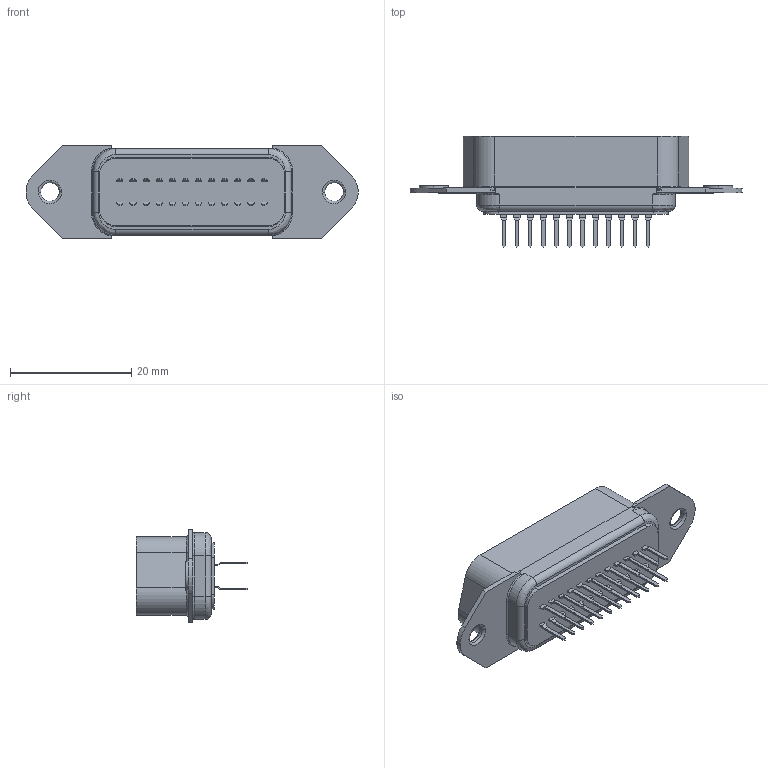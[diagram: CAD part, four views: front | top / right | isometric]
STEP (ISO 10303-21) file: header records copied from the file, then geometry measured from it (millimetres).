
FILE_DESCRIPTION (( 'STEP AP214' ), '1' );
FILE_NAME ('111-024-113L001.STEP', '2020-07-21T18:58:43', ( '' ), ( '' ), 'SwSTEP 2.0', 'SolidWorks 2020', '' );
FILE_SCHEMA (( 'AUTOMOTIVE_DESIGN' ));
Products named in the file (1): 111-024-113L001
Bounding box: 54.67 x 18.3 x 15.3 mm (x, y, z)
Volume: 3178.7 mm3; surface area: 7042.6 mm2
Topology: 1 solids, 3 shells, 1837 faces, 5329 edges, 3400 vertices
Faces by surface type: plane 1496, cylinder 297, bspline 44
Entity records: 60942 total; most frequent: CARTESIAN_POINT 12676, ORIENTED_EDGE 10638, DIRECTION 9174, EDGE_CURVE 5319, LINE 4278, VECTOR 4278, VERTEX_POINT 3400, AXIS2_PLACEMENT_3D 2448
